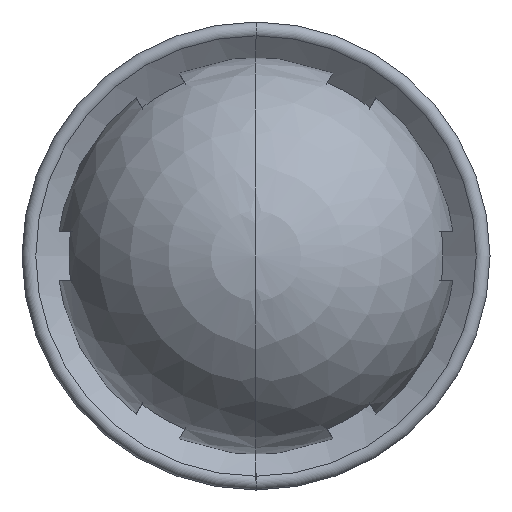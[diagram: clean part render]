
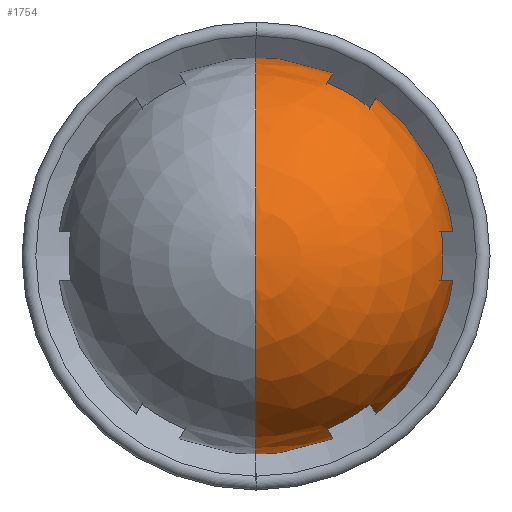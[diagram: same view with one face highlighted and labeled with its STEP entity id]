
A CAD part, front view. The second image highlights one B-rep face of the part: STEP entity #1754.
In plain terms, the highlighted spherical face has radius 12 mm.
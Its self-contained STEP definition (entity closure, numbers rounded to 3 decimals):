
#17=SPHERICAL_SURFACE('',#1879,12.);
#355=ORIENTED_EDGE('',*,*,#669,.F.);
#356=ORIENTED_EDGE('',*,*,#630,.T.);
#357=ORIENTED_EDGE('',*,*,#633,.T.);
#358=ORIENTED_EDGE('',*,*,#636,.T.);
#359=ORIENTED_EDGE('',*,*,#614,.F.);
#360=ORIENTED_EDGE('',*,*,#606,.T.);
#361=ORIENTED_EDGE('',*,*,#609,.T.);
#362=ORIENTED_EDGE('',*,*,#612,.T.);
#363=ORIENTED_EDGE('',*,*,#626,.F.);
#364=ORIENTED_EDGE('',*,*,#618,.T.);
#365=ORIENTED_EDGE('',*,*,#621,.T.);
#366=ORIENTED_EDGE('',*,*,#624,.T.);
#367=ORIENTED_EDGE('',*,*,#581,.T.);
#368=ORIENTED_EDGE('',*,*,#664,.F.);
#581=EDGE_CURVE('',#772,#771,#899,.F.);
#606=EDGE_CURVE('',#793,#796,#913,.T.);
#609=EDGE_CURVE('',#796,#798,#915,.T.);
#612=EDGE_CURVE('',#798,#800,#917,.T.);
#614=EDGE_CURVE('',#793,#800,#919,.T.);
#618=EDGE_CURVE('',#801,#804,#921,.T.);
#621=EDGE_CURVE('',#804,#806,#923,.T.);
#624=EDGE_CURVE('',#806,#808,#925,.T.);
#626=EDGE_CURVE('',#801,#808,#927,.T.);
#630=EDGE_CURVE('',#809,#812,#929,.T.);
#633=EDGE_CURVE('',#812,#814,#931,.T.);
#636=EDGE_CURVE('',#814,#816,#933,.T.);
#664=EDGE_CURVE('',#772,#771,#943,.T.);
#669=EDGE_CURVE('',#809,#816,#946,.T.);
#771=VERTEX_POINT('',#2389);
#772=VERTEX_POINT('',#2391);
#793=VERTEX_POINT('',#2436);
#796=VERTEX_POINT('',#2441);
#798=VERTEX_POINT('',#2447);
#800=VERTEX_POINT('',#2453);
#801=VERTEX_POINT('',#2460);
#804=VERTEX_POINT('',#2465);
#806=VERTEX_POINT('',#2471);
#808=VERTEX_POINT('',#2477);
#809=VERTEX_POINT('',#2484);
#812=VERTEX_POINT('',#2489);
#814=VERTEX_POINT('',#2495);
#816=VERTEX_POINT('',#2501);
#899=CIRCLE('',#1803,12.);
#913=CIRCLE('',#1819,11.906);
#915=CIRCLE('',#1822,11.314);
#917=CIRCLE('',#1825,11.906);
#919=CIRCLE('',#1828,11.314);
#921=CIRCLE('',#1831,11.906);
#923=CIRCLE('',#1834,11.314);
#925=CIRCLE('',#1837,11.906);
#927=CIRCLE('',#1840,11.314);
#929=CIRCLE('',#1843,11.906);
#931=CIRCLE('',#1846,11.314);
#933=CIRCLE('',#1849,11.906);
#943=CIRCLE('',#1872,9.);
#946=CIRCLE('',#1880,11.314);
#1039=EDGE_LOOP('',(#355,#356,#357,#358));
#1040=EDGE_LOOP('',(#359,#360,#361,#362));
#1041=EDGE_LOOP('',(#363,#364,#365,#366));
#1042=EDGE_LOOP('',(#367,#368));
#1135=FACE_BOUND('',#1039,.T.);
#1136=FACE_BOUND('',#1040,.T.);
#1137=FACE_BOUND('',#1041,.T.);
#1138=FACE_BOUND('',#1042,.T.);
#1754=ADVANCED_FACE('',(#1135,#1136,#1137,#1138),#17,.T.);
#1803=AXIS2_PLACEMENT_3D('',#2390,#1981,#1982);
#1819=AXIS2_PLACEMENT_3D('',#2442,#2024,#2025);
#1822=AXIS2_PLACEMENT_3D('',#2448,#2031,#2032);
#1825=AXIS2_PLACEMENT_3D('',#2454,#2038,#2039);
#1828=AXIS2_PLACEMENT_3D('',#2457,#2044,#2045);
#1831=AXIS2_PLACEMENT_3D('',#2466,#2052,#2053);
#1834=AXIS2_PLACEMENT_3D('',#2472,#2059,#2060);
#1837=AXIS2_PLACEMENT_3D('',#2478,#2066,#2067);
#1840=AXIS2_PLACEMENT_3D('',#2481,#2072,#2073);
#1843=AXIS2_PLACEMENT_3D('',#2490,#2080,#2081);
#1846=AXIS2_PLACEMENT_3D('',#2496,#2087,#2088);
#1849=AXIS2_PLACEMENT_3D('',#2502,#2094,#2095);
#1872=AXIS2_PLACEMENT_3D('',#2598,#2150,#2151);
#1879=AXIS2_PLACEMENT_3D('',#2630,#2164,#2165);
#1880=AXIS2_PLACEMENT_3D('',#2631,#2166,#2167);
#1981=DIRECTION('',(-1.,0.,0.));
#1982=DIRECTION('',(0.,0.,1.));
#2024=DIRECTION('',(0.,0.,-1.));
#2025=DIRECTION('',(-1.,0.,0.));
#2031=DIRECTION('',(0.,-1.,0.));
#2032=DIRECTION('',(0.,0.,-1.));
#2038=DIRECTION('',(0.,0.,1.));
#2039=DIRECTION('',(1.,0.,0.));
#2044=DIRECTION('',(0.,-1.,0.));
#2045=DIRECTION('',(0.,0.,-1.));
#2052=DIRECTION('',(0.866,0.,-0.5));
#2053=DIRECTION('',(-0.5,0.,-0.866));
#2059=DIRECTION('',(0.,-1.,0.));
#2060=DIRECTION('',(0.,0.,-1.));
#2066=DIRECTION('',(-0.866,0.,0.5));
#2067=DIRECTION('',(0.5,0.,0.866));
#2072=DIRECTION('',(0.,-1.,0.));
#2073=DIRECTION('',(0.,0.,-1.));
#2080=DIRECTION('',(-0.866,0.,-0.5));
#2081=DIRECTION('',(-0.5,0.,0.866));
#2087=DIRECTION('',(0.,-1.,0.));
#2088=DIRECTION('',(0.,0.,-1.));
#2094=DIRECTION('',(0.866,0.,0.5));
#2095=DIRECTION('',(0.5,0.,-0.866));
#2150=DIRECTION('',(0.,1.,0.));
#2151=DIRECTION('',(0.,0.,1.));
#2164=DIRECTION('',(0.,1.,0.));
#2165=DIRECTION('',(-1.,0.,0.));
#2166=DIRECTION('',(0.,-1.,0.));
#2167=DIRECTION('',(0.,0.,-1.));
#2389=CARTESIAN_POINT('',(0.,7.937,-9.));
#2390=CARTESIAN_POINT('',(0.,0.,0.));
#2391=CARTESIAN_POINT('',(0.,7.937,9.));
#2436=CARTESIAN_POINT('',(11.214,4.,-1.5));
#2441=CARTESIAN_POINT('',(11.214,-4.,-1.5));
#2442=CARTESIAN_POINT('',(0.,0.,-1.5));
#2447=CARTESIAN_POINT('',(11.214,-4.,1.5));
#2448=CARTESIAN_POINT('',(0.,-4.,0.));
#2453=CARTESIAN_POINT('',(11.214,4.,1.5));
#2454=CARTESIAN_POINT('',(0.,0.,1.5));
#2457=CARTESIAN_POINT('',(0.,4.,0.));
#2460=CARTESIAN_POINT('',(6.906,4.,8.961));
#2465=CARTESIAN_POINT('',(6.906,-4.,8.961));
#2466=CARTESIAN_POINT('',(1.299,0.,-0.75));
#2471=CARTESIAN_POINT('',(4.308,-4.,10.461));
#2472=CARTESIAN_POINT('',(0.,-4.,0.));
#2477=CARTESIAN_POINT('',(4.308,4.,10.461));
#2478=CARTESIAN_POINT('',(-1.299,0.,0.75));
#2481=CARTESIAN_POINT('',(0.,4.,0.));
#2484=CARTESIAN_POINT('',(4.308,4.,-10.461));
#2489=CARTESIAN_POINT('',(4.308,-4.,-10.461));
#2490=CARTESIAN_POINT('',(-1.299,0.,-0.75));
#2495=CARTESIAN_POINT('',(6.906,-4.,-8.961));
#2496=CARTESIAN_POINT('',(0.,-4.,0.));
#2501=CARTESIAN_POINT('',(6.906,4.,-8.961));
#2502=CARTESIAN_POINT('',(1.299,0.,0.75));
#2598=CARTESIAN_POINT('',(0.,7.937,0.));
#2630=CARTESIAN_POINT('',(0.,0.,0.));
#2631=CARTESIAN_POINT('',(0.,4.,0.));
